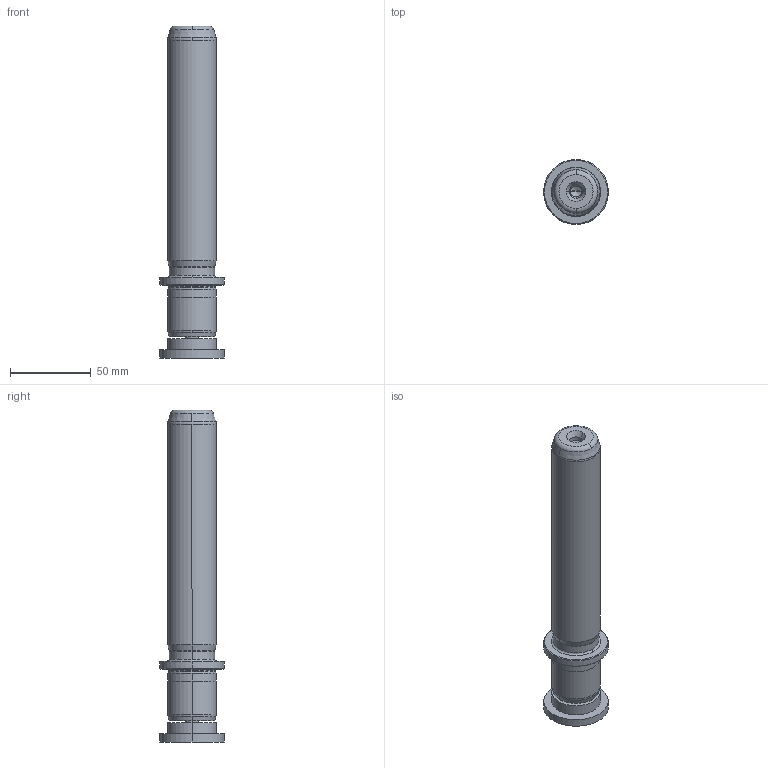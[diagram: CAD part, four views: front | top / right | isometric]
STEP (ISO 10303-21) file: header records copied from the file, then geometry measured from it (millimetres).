
FILE_DESCRIPTION((''),'2;1');
FILE_NAME('P22_030_160.stp','2009-02-03T10:20:31',(''),(''),'Mechanical Desktop 2009','Mechanical Desktop 2009',', , ');
FILE_SCHEMA(('CONFIG_CONTROL_DESIGN'));
Length unit declared in the file: millimetre
Products named in the file (2): Product; blmdl1
Assembly tree (1 placements, depth 2):
  Product
    blmdl1
Bounding box: 40 x 40 x 205 mm (x, y, z)
Volume: 145918.5 mm3; surface area: 26731.1 mm2
Topology: 3 solids, 3 shells, 99 faces, 237 edges, 149 vertices
Faces by surface type: cylinder 32, cone 28, plane 19, torus 10, bspline 10
Entity records: 3419 total; most frequent: CARTESIAN_POINT 923, DIRECTION 570, ORIENTED_EDGE 466, AXIS2_PLACEMENT_3D 246, EDGE_CURVE 233, CIRCLE 155, VERTEX_POINT 149, EDGE_LOOP 110
